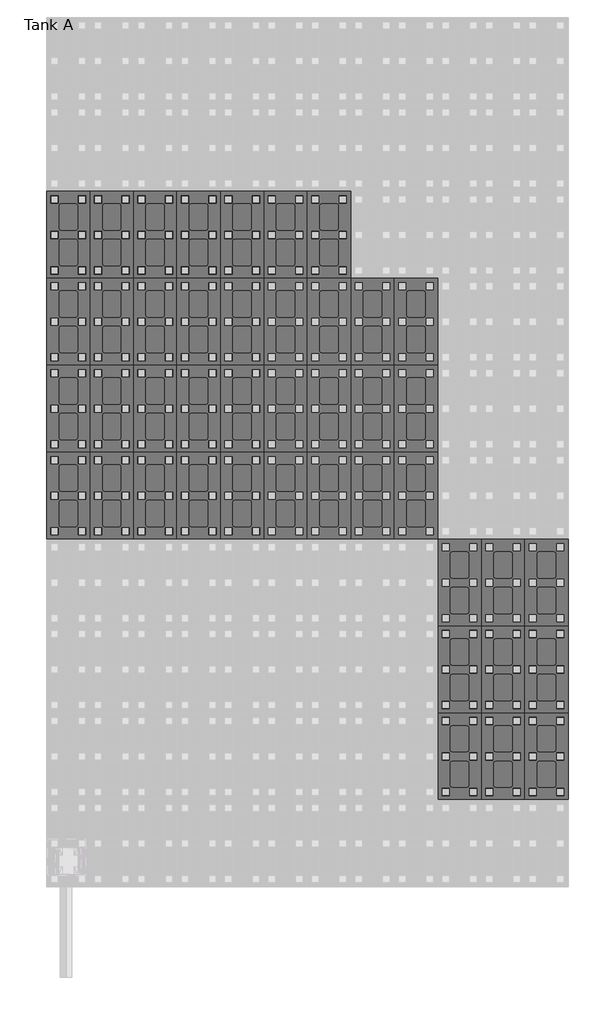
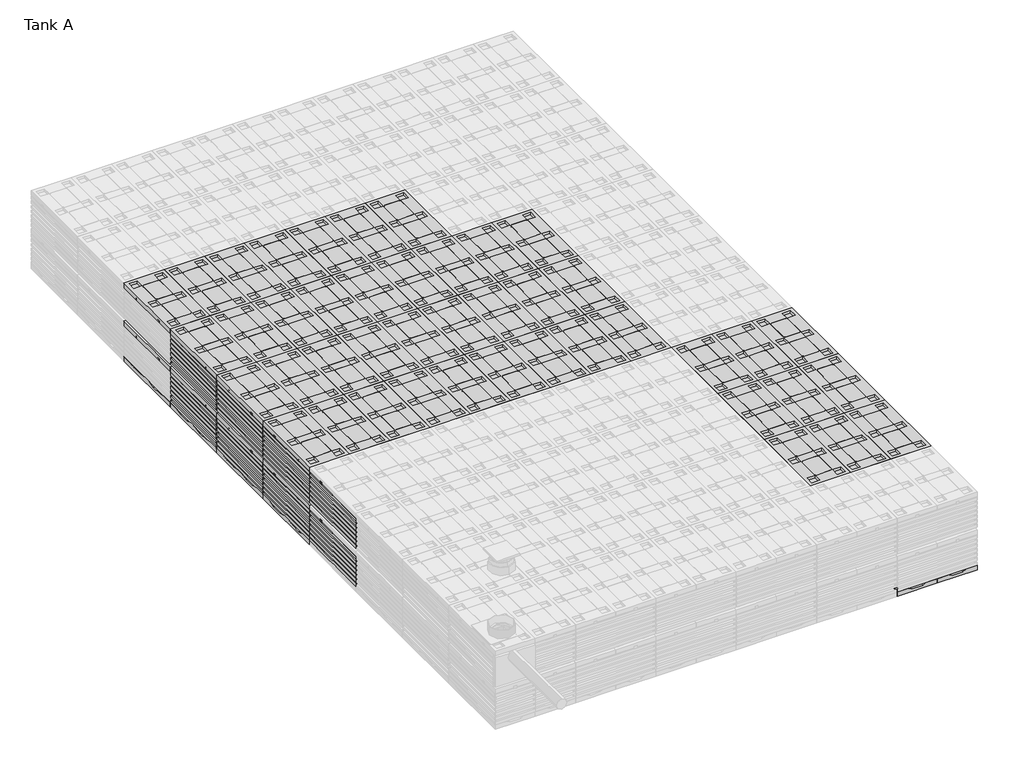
# One storey, part 2 of 6: 142 unitary equipment elements.
"""IFC4 building model written with IfcOpenShell, lengths in millimetres."""

from ifc_helpers import new_model, si_unit, origin, place, context, project, spatial, transform, mapped, element, save
from components import closed_bottom_plate_7d425a97, std_f31acf44, std_d7962c01

model = new_model("IFC4")

# Units and contexts
model_context = context("Model", 3, world=origin())
ifc_project = project(units=[si_unit("LENGTHUNIT", "METRE", prefix="MILLI")], contexts=[model_context])

# Site, building, storey
site = spatial("IfcSite", under=ifc_project)
building = spatial("IfcBuilding", under=site)
storey = spatial("IfcBuildingStorey", under=building, Name="Tank A", Elevation=-2300.0)

# Unitary equipment
placement = place(None, origin())
closed_bottom_plate_shape = closed_bottom_plate_7d425a97(model_context)
element("IfcUnitaryEquipment", 1, ObjectType="Wavin_MechanicalEquipment_QBicPlusZDoNotUseBottomPlate : Open bottom plate", at=placement, inside=storey, context=model_context, shape_type="MappedRepresentation", body=[
    mapped(closed_bottom_plate_shape, transform((9686.051096, -4439.2220602, -2230.0), x_axis=(0.0, 1.0000000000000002, 0.0), y_axis=(-1.0000000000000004, 0.0, 0.0), z_axis=(0.0, 0.0, 1.0000000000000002))),
])
element("IfcUnitaryEquipment", 2, ObjectType="Wavin_MechanicalEquipment_QBicPlusZDoNotUseBottomPlate : Open bottom plate", at=placement, inside=storey, context=model_context, shape_type="MappedRepresentation", body=[
    mapped(closed_bottom_plate_shape, transform((9686.051096, -3239.2220602, -2230.0), x_axis=(0.0, 1.0000000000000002, 0.0), y_axis=(-1.0000000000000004, 0.0, 0.0), z_axis=(0.0, 0.0, 1.0000000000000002))),
])
element("IfcUnitaryEquipment", 3, ObjectType="Wavin_MechanicalEquipment_QBicPlusZDoNotUseBottomPlate : Open bottom plate", at=placement, inside=storey, context=model_context, shape_type="MappedRepresentation", body=[
    mapped(closed_bottom_plate_shape, transform((9086.051096, -4439.2220602, -2230.0), x_axis=(0.0, 1.0, 0.0), y_axis=(-1.0000000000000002, 0.0, 0.0), z_axis=(0.0, 0.0, 1.0000000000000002))),
])
element("IfcUnitaryEquipment", 4, ObjectType="Wavin_MechanicalEquipment_QBicPlusZDoNotUseBottomPlate : Open bottom plate", at=placement, inside=storey, context=model_context, shape_type="MappedRepresentation", body=[
    mapped(closed_bottom_plate_shape, transform((9686.051096, -2039.2220602, -2230.0), x_axis=(0.0, 1.0, 0.0), y_axis=(-1.0000000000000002, 0.0, 0.0), z_axis=(0.0, 0.0, 1.0000000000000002))),
])
element("IfcUnitaryEquipment", 5, ObjectType="Wavin_MechanicalEquipment_QBicPlusZDoNotUseBottomPlate : Open bottom plate", at=placement, inside=storey, context=model_context, shape_type="MappedRepresentation", body=[
    mapped(closed_bottom_plate_shape, transform((9686.051096, -839.2220602, -2230.0), x_axis=(0.0, 1.0, 0.0), y_axis=(-1.0000000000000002, 0.0, 0.0), z_axis=(0.0, 0.0, 1.0000000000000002))),
])
element("IfcUnitaryEquipment", 6, ObjectType="Wavin_MechanicalEquipment_QBicPlusZDoNotUseBottomPlate : Open bottom plate", at=placement, inside=storey, context=model_context, shape_type="MappedRepresentation", body=[
    mapped(closed_bottom_plate_shape, transform((9086.051096, -3239.2220602, -2230.0), x_axis=(0.0, 1.0, 0.0), y_axis=(-1.0000000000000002, 0.0, 0.0), z_axis=(0.0, 0.0, 1.0000000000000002))),
])
element("IfcUnitaryEquipment", 7, ObjectType="Wavin_MechanicalEquipment_QBicPlusZDoNotUseBottomPlate : Open bottom plate", at=placement, inside=storey, context=model_context, shape_type="MappedRepresentation", body=[
    mapped(closed_bottom_plate_shape, transform((9086.051096, -2039.2220602, -2230.0), x_axis=(0.0, 1.0, 0.0), y_axis=(-1.0000000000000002, 0.0, 0.0), z_axis=(0.0, 0.0, 1.0000000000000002))),
])
element("IfcUnitaryEquipment", 8, ObjectType="Wavin_MechanicalEquipment_QBicPlusZDoNotUseBottomPlate : Open bottom plate", at=placement, inside=storey, context=model_context, shape_type="MappedRepresentation", body=[
    mapped(closed_bottom_plate_shape, transform((9086.051096, -839.2220602, -2230.0), x_axis=(0.0, 1.0, 0.0), y_axis=(-1.0000000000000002, 0.0, 0.0), z_axis=(0.0, 0.0, 1.0000000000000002))),
])
element("IfcUnitaryEquipment", 9, ObjectType="Wavin_MechanicalEquipment_QBicPlusZDoNotUseBottomPlate : Open bottom plate", at=placement, inside=storey, context=model_context, shape_type="MappedRepresentation", body=[
    mapped(closed_bottom_plate_shape, transform((8486.051096, -3239.2220602, -2230.0), x_axis=(0.0, 1.0, 0.0), y_axis=(-1.0000000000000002, 0.0, 0.0), z_axis=(0.0, 0.0, 1.0000000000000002))),
])
element("IfcUnitaryEquipment", 10, ObjectType="Wavin_MechanicalEquipment_QBicPlusZDoNotUseBottomPlate : Open bottom plate", at=placement, inside=storey, context=model_context, shape_type="MappedRepresentation", body=[
    mapped(closed_bottom_plate_shape, transform((8486.051096, -2039.2220602, -2230.0), x_axis=(0.0, 1.0, 0.0), y_axis=(-1.0000000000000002, 0.0, 0.0), z_axis=(0.0, 0.0, 1.0000000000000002))),
])
element("IfcUnitaryEquipment", 11, ObjectType="Wavin_MechanicalEquipment_QBicPlusZDoNotUseBottomPlate : Open bottom plate", at=placement, inside=storey, context=model_context, shape_type="MappedRepresentation", body=[
    mapped(closed_bottom_plate_shape, transform((8486.051096, -839.2220602, -2230.0), x_axis=(0.0, 1.0, 0.0), y_axis=(-1.0000000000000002, 0.0, 0.0), z_axis=(0.0, 0.0, 1.0000000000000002))),
])
element("IfcUnitaryEquipment", 12, ObjectType="Wavin_MechanicalEquipment_QBicPlusZDoNotUseBottomPlate : Open bottom plate", at=placement, inside=storey, context=model_context, shape_type="MappedRepresentation", body=[
    mapped(closed_bottom_plate_shape, transform((7886.051096, 360.7779398, -2230.0), x_axis=(0.0, 1.0, 0.0), y_axis=(-1.0000000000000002, 0.0, 0.0), z_axis=(0.0, 0.0, 1.0000000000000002))),
])
element("IfcUnitaryEquipment", 13, ObjectType="Wavin_MechanicalEquipment_QBicPlusZDoNotUseBottomPlate : Open bottom plate", at=placement, inside=storey, context=model_context, shape_type="MappedRepresentation", body=[
    mapped(closed_bottom_plate_shape, transform((7886.051096, 1560.7779398, -2230.0), x_axis=(0.0, 1.0, 0.0), y_axis=(-1.0000000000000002, 0.0, 0.0), z_axis=(0.0, 0.0, 1.0000000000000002))),
])
element("IfcUnitaryEquipment", 14, ObjectType="Wavin_MechanicalEquipment_QBicPlusZDoNotUseBottomPlate : Open bottom plate", at=placement, inside=storey, context=model_context, shape_type="MappedRepresentation", body=[
    mapped(closed_bottom_plate_shape, transform((7886.051096, 2760.7779398, -2230.0), x_axis=(0.0, 1.0, 0.0), y_axis=(-1.0000000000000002, 0.0, 0.0), z_axis=(0.0, 0.0, 1.0000000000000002))),
])
element("IfcUnitaryEquipment", 15, ObjectType="Wavin_MechanicalEquipment_QBicPlusZDoNotUseBottomPlate : Open bottom plate", at=placement, inside=storey, context=model_context, shape_type="MappedRepresentation", body=[
    mapped(closed_bottom_plate_shape, transform((7286.051096, 360.7779398, -2230.0), x_axis=(0.0, 1.0, 0.0), y_axis=(-1.0000000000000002, 0.0, 0.0), z_axis=(0.0, 0.0, 1.0000000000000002))),
])
element("IfcUnitaryEquipment", 16, ObjectType="Wavin_MechanicalEquipment_QBicPlusZDoNotUseBottomPlate : Open bottom plate", at=placement, inside=storey, context=model_context, shape_type="MappedRepresentation", body=[
    mapped(closed_bottom_plate_shape, transform((7286.051096, 1560.7779398, -2230.0), x_axis=(0.0, 1.0, 0.0), y_axis=(-1.0000000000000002, 0.0, 0.0), z_axis=(0.0, 0.0, 1.0000000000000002))),
])
element("IfcUnitaryEquipment", 17, ObjectType="Wavin_MechanicalEquipment_QBicPlusZDoNotUseBottomPlate : Open bottom plate", at=placement, inside=storey, context=model_context, shape_type="MappedRepresentation", body=[
    mapped(closed_bottom_plate_shape, transform((7286.051096, 2760.7779398, -2230.0), x_axis=(0.0, 1.0, 0.0), y_axis=(-1.0000000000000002, 0.0, 0.0), z_axis=(0.0, 0.0, 1.0000000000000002))),
])
element("IfcUnitaryEquipment", 18, ObjectType="Wavin_MechanicalEquipment_QBicPlusZDoNotUseBottomPlate : Open bottom plate", at=placement, inside=storey, context=model_context, shape_type="MappedRepresentation", body=[
    mapped(closed_bottom_plate_shape, transform((6686.051096, 360.7779398, -2230.0), x_axis=(0.0, 1.0, 0.0), y_axis=(-1.0000000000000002, 0.0, 0.0), z_axis=(0.0, 0.0, 1.0000000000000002))),
])
element("IfcUnitaryEquipment", 19, ObjectType="Wavin_MechanicalEquipment_QBicPlusZDoNotUseBottomPlate : Open bottom plate", at=placement, inside=storey, context=model_context, shape_type="MappedRepresentation", body=[
    mapped(closed_bottom_plate_shape, transform((6686.051096, 1560.7779398, -2230.0), x_axis=(0.0, 1.0, 0.0), y_axis=(-1.0000000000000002, 0.0, 0.0), z_axis=(0.0, 0.0, 1.0000000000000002))),
])
element("IfcUnitaryEquipment", 20, ObjectType="Wavin_MechanicalEquipment_QBicPlusZDoNotUseBottomPlate : Open bottom plate", at=placement, inside=storey, context=model_context, shape_type="MappedRepresentation", body=[
    mapped(closed_bottom_plate_shape, transform((6686.051096, 2760.7779398, -2230.0), x_axis=(0.0, 1.0, 0.0), y_axis=(-1.0000000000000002, 0.0, 0.0), z_axis=(0.0, 0.0, 1.0000000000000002))),
])
element("IfcUnitaryEquipment", 21, ObjectType="Wavin_MechanicalEquipment_QBicPlusZDoNotUseBottomPlate : Open bottom plate", at=placement, inside=storey, context=model_context, shape_type="MappedRepresentation", body=[
    mapped(closed_bottom_plate_shape, transform((6086.051096, 360.7779398, -2230.0), x_axis=(0.0, 1.0, 0.0), y_axis=(-1.0000000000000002, 0.0, 0.0), z_axis=(0.0, 0.0, 1.0000000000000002))),
])
element("IfcUnitaryEquipment", 22, ObjectType="Wavin_MechanicalEquipment_QBicPlusZDoNotUseBottomPlate : Open bottom plate", at=placement, inside=storey, context=model_context, shape_type="MappedRepresentation", body=[
    mapped(closed_bottom_plate_shape, transform((6086.051096, 1560.7779398, -2230.0), x_axis=(0.0, 1.0, 0.0), y_axis=(-1.0000000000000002, 0.0, 0.0), z_axis=(0.0, 0.0, 1.0000000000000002))),
])
element("IfcUnitaryEquipment", 23, ObjectType="Wavin_MechanicalEquipment_QBicPlusZDoNotUseBottomPlate : Open bottom plate", at=placement, inside=storey, context=model_context, shape_type="MappedRepresentation", body=[
    mapped(closed_bottom_plate_shape, transform((6086.051096, 2760.7779398, -2230.0), x_axis=(0.0, 1.0, 0.0), y_axis=(-1.0000000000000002, 0.0, 0.0), z_axis=(0.0, 0.0, 1.0000000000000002))),
])
element("IfcUnitaryEquipment", 24, ObjectType="Wavin_MechanicalEquipment_QBicPlusZDoNotUseBottomPlate : Open bottom plate", at=placement, inside=storey, context=model_context, shape_type="MappedRepresentation", body=[
    mapped(closed_bottom_plate_shape, transform((5486.051096, 360.7779398, -2230.0), x_axis=(0.0, 1.0, 0.0), y_axis=(-1.0000000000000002, 0.0, 0.0), z_axis=(0.0, 0.0, 1.0000000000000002))),
])
element("IfcUnitaryEquipment", 25, ObjectType="Wavin_MechanicalEquipment_QBicPlusZDoNotUseBottomPlate : Open bottom plate", at=placement, inside=storey, context=model_context, shape_type="MappedRepresentation", body=[
    mapped(closed_bottom_plate_shape, transform((5486.051096, 1560.7779398, -2230.0), x_axis=(0.0, 1.0, 0.0), y_axis=(-1.0000000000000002, 0.0, 0.0), z_axis=(0.0, 0.0, 1.0000000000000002))),
])
element("IfcUnitaryEquipment", 26, ObjectType="Wavin_MechanicalEquipment_QBicPlusZDoNotUseBottomPlate : Open bottom plate", at=placement, inside=storey, context=model_context, shape_type="MappedRepresentation", body=[
    mapped(closed_bottom_plate_shape, transform((5486.051096, 2760.7779398, -2230.0), x_axis=(0.0, 1.0, 0.0), y_axis=(-1.0000000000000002, 0.0, 0.0), z_axis=(0.0, 0.0, 1.0000000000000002))),
])
element("IfcUnitaryEquipment", 27, ObjectType="Wavin_MechanicalEquipment_QBicPlusZDoNotUseBottomPlate : Open bottom plate", at=placement, inside=storey, context=model_context, shape_type="MappedRepresentation", body=[
    mapped(closed_bottom_plate_shape, transform((5486.051096, 3960.7779398, -2230.0), x_axis=(0.0, 1.0, 0.0), y_axis=(-1.0000000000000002, 0.0, 0.0), z_axis=(0.0, 0.0, 1.0000000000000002))),
])
element("IfcUnitaryEquipment", 28, ObjectType="Wavin_MechanicalEquipment_QBicPlusZDoNotUseBottomPlate : Open bottom plate", at=placement, inside=storey, context=model_context, shape_type="MappedRepresentation", body=[
    mapped(closed_bottom_plate_shape, transform((4886.051096, 360.7779398, -2230.0), x_axis=(0.0, 1.0, 0.0), y_axis=(-1.0000000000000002, 0.0, 0.0), z_axis=(0.0, 0.0, 1.0000000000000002))),
])
element("IfcUnitaryEquipment", 29, ObjectType="Wavin_MechanicalEquipment_QBicPlusZDoNotUseBottomPlate : Open bottom plate", at=placement, inside=storey, context=model_context, shape_type="MappedRepresentation", body=[
    mapped(closed_bottom_plate_shape, transform((4886.051096, 1560.7779398, -2230.0), x_axis=(0.0, 1.0, 0.0), y_axis=(-1.0000000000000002, 0.0, 0.0), z_axis=(0.0, 0.0, 1.0000000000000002))),
])
element("IfcUnitaryEquipment", 30, ObjectType="Wavin_MechanicalEquipment_QBicPlusZDoNotUseBottomPlate : Open bottom plate", at=placement, inside=storey, context=model_context, shape_type="MappedRepresentation", body=[
    mapped(closed_bottom_plate_shape, transform((4886.051096, 2760.7779398, -2230.0), x_axis=(0.0, 1.0, 0.0), y_axis=(-1.0000000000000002, 0.0, 0.0), z_axis=(0.0, 0.0, 1.0000000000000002))),
])
element("IfcUnitaryEquipment", 31, ObjectType="Wavin_MechanicalEquipment_QBicPlusZDoNotUseBottomPlate : Open bottom plate", at=placement, inside=storey, context=model_context, shape_type="MappedRepresentation", body=[
    mapped(closed_bottom_plate_shape, transform((4886.051096, 3960.7779398, -2230.0), x_axis=(0.0, 1.0, 0.0), y_axis=(-1.0000000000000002, 0.0, 0.0), z_axis=(0.0, 0.0, 1.0000000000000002))),
])
element("IfcUnitaryEquipment", 32, ObjectType="Wavin_MechanicalEquipment_QBicPlusZDoNotUseBottomPlate : Open bottom plate", at=placement, inside=storey, context=model_context, shape_type="MappedRepresentation", body=[
    mapped(closed_bottom_plate_shape, transform((4286.051096, 360.7779398, -2230.0), x_axis=(0.0, 1.0, 0.0), y_axis=(-1.0000000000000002, 0.0, 0.0), z_axis=(0.0, 0.0, 1.0000000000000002))),
])
element("IfcUnitaryEquipment", 33, ObjectType="Wavin_MechanicalEquipment_QBicPlusZDoNotUseBottomPlate : Open bottom plate", at=placement, inside=storey, context=model_context, shape_type="MappedRepresentation", body=[
    mapped(closed_bottom_plate_shape, transform((4286.051096, 1560.7779398, -2230.0), x_axis=(0.0, 1.0, 0.0), y_axis=(-1.0000000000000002, 0.0, 0.0), z_axis=(0.0, 0.0, 1.0000000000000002))),
])
element("IfcUnitaryEquipment", 34, ObjectType="Wavin_MechanicalEquipment_QBicPlusZDoNotUseBottomPlate : Open bottom plate", at=placement, inside=storey, context=model_context, shape_type="MappedRepresentation", body=[
    mapped(closed_bottom_plate_shape, transform((4286.051096, 2760.7779398, -2230.0), x_axis=(0.0, 1.0, 0.0), y_axis=(-1.0000000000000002, 0.0, 0.0), z_axis=(0.0, 0.0, 1.0000000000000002))),
])
element("IfcUnitaryEquipment", 35, ObjectType="Wavin_MechanicalEquipment_QBicPlusZDoNotUseBottomPlate : Open bottom plate", at=placement, inside=storey, context=model_context, shape_type="MappedRepresentation", body=[
    mapped(closed_bottom_plate_shape, transform((4286.051096, 3960.7779398, -2230.0), x_axis=(0.0, 1.0, 0.0), y_axis=(-1.0000000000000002, 0.0, 0.0), z_axis=(0.0, 0.0, 1.0000000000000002))),
])
element("IfcUnitaryEquipment", 36, ObjectType="Wavin_MechanicalEquipment_QBicPlusZDoNotUseBottomPlate : Open bottom plate", at=placement, inside=storey, context=model_context, shape_type="MappedRepresentation", body=[
    mapped(closed_bottom_plate_shape, transform((3686.051096, 360.7779398, -2230.0), x_axis=(0.0, 1.0, 0.0), y_axis=(-1.0000000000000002, 0.0, 0.0), z_axis=(0.0, 0.0, 1.0000000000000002))),
])
element("IfcUnitaryEquipment", 37, ObjectType="Wavin_MechanicalEquipment_QBicPlusZDoNotUseBottomPlate : Open bottom plate", at=placement, inside=storey, context=model_context, shape_type="MappedRepresentation", body=[
    mapped(closed_bottom_plate_shape, transform((3686.051096, 1560.7779398, -2230.0), x_axis=(0.0, 1.0, 0.0), y_axis=(-1.0000000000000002, 0.0, 0.0), z_axis=(0.0, 0.0, 1.0000000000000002))),
])
element("IfcUnitaryEquipment", 38, ObjectType="Wavin_MechanicalEquipment_QBicPlusZDoNotUseBottomPlate : Open bottom plate", at=placement, inside=storey, context=model_context, shape_type="MappedRepresentation", body=[
    mapped(closed_bottom_plate_shape, transform((3686.051096, 2760.7779398, -2230.0), x_axis=(0.0, 1.0, 0.0), y_axis=(-1.0000000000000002, 0.0, 0.0), z_axis=(0.0, 0.0, 1.0000000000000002))),
])
element("IfcUnitaryEquipment", 39, ObjectType="Wavin_MechanicalEquipment_QBicPlusZDoNotUseBottomPlate : Open bottom plate", at=placement, inside=storey, context=model_context, shape_type="MappedRepresentation", body=[
    mapped(closed_bottom_plate_shape, transform((3686.051096, 3960.7779398, -2230.0), x_axis=(0.0, 1.0, 0.0), y_axis=(-1.0000000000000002, 0.0, 0.0), z_axis=(0.0, 0.0, 1.0000000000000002))),
])
element("IfcUnitaryEquipment", 40, ObjectType="Wavin_MechanicalEquipment_QBicPlusZDoNotUseBottomPlate : Open bottom plate", at=placement, inside=storey, context=model_context, shape_type="MappedRepresentation", body=[
    mapped(closed_bottom_plate_shape, transform((3086.051096, 360.7779398, -2230.0), x_axis=(0.0, 1.0, 0.0), y_axis=(-1.0000000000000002, 0.0, 0.0), z_axis=(0.0, 0.0, 1.0000000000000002))),
])
element("IfcUnitaryEquipment", 41, ObjectType="Wavin_MechanicalEquipment_QBicPlusZDoNotUseBottomPlate : Open bottom plate", at=placement, inside=storey, context=model_context, shape_type="MappedRepresentation", body=[
    mapped(closed_bottom_plate_shape, transform((3086.051096, 1560.7779398, -2230.0), x_axis=(0.0, 1.0, 0.0), y_axis=(-1.0000000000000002, 0.0, 0.0), z_axis=(0.0, 0.0, 1.0000000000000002))),
])
element("IfcUnitaryEquipment", 42, ObjectType="Wavin_MechanicalEquipment_QBicPlusZDoNotUseBottomPlate : Open bottom plate", at=placement, inside=storey, context=model_context, shape_type="MappedRepresentation", body=[
    mapped(closed_bottom_plate_shape, transform((3086.051096, 2760.7779398, -2230.0), x_axis=(0.0, 1.0, 0.0), y_axis=(-1.0000000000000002, 0.0, 0.0), z_axis=(0.0, 0.0, 1.0000000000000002))),
])
element("IfcUnitaryEquipment", 43, ObjectType="Wavin_MechanicalEquipment_QBicPlusZDoNotUseBottomPlate : Open bottom plate", at=placement, inside=storey, context=model_context, shape_type="MappedRepresentation", body=[
    mapped(closed_bottom_plate_shape, transform((3086.051096, 3960.7779398, -2230.0), x_axis=(0.0, 1.0, 0.0), y_axis=(-1.0000000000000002, 0.0, 0.0), z_axis=(0.0, 0.0, 1.0000000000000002))),
])
std_shape = std_f31acf44(model_context)
element("IfcUnitaryEquipment", 44, ObjectType="Wavin_MechanicalEquipment_QBicPlusZDoNotUseLateralSidePlate : std", at=placement, inside=storey, context=model_context, shape_type="MappedRepresentation", body=[
    mapped(std_shape, transform((9686.051096, -839.2220602, -2330.0), x_axis=(0.0, 1.0000000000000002, 0.0), y_axis=(-1.0000000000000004, 0.0, 0.0), z_axis=(0.0, 0.0, 1.0000000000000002))),
])
element("IfcUnitaryEquipment", 45, ObjectType="Wavin_MechanicalEquipment_QBicPlusZDoNotUseLateralSidePlate : std", at=placement, inside=storey, context=model_context, shape_type="MappedRepresentation", body=[
    mapped(std_shape, transform((9686.051096, -839.2220602, -1730.0), x_axis=(0.0, 1.0000000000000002, 0.0), y_axis=(-1.0000000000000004, 0.0, 0.0), z_axis=(0.0, 0.0, 1.0000000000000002))),
])
element("IfcUnitaryEquipment", 46, ObjectType="Wavin_MechanicalEquipment_QBicPlusZDoNotUseLateralSidePlate : std", at=placement, inside=storey, context=model_context, shape_type="MappedRepresentation", body=[
    mapped(std_shape, transform((9686.051096, -2039.2220602, -2330.0), x_axis=(0.0, 1.0000000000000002, 0.0), y_axis=(-1.0000000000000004, 0.0, 0.0), z_axis=(0.0, 0.0, 1.0000000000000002))),
])
element("IfcUnitaryEquipment", 47, ObjectType="Wavin_MechanicalEquipment_QBicPlusZDoNotUseLateralSidePlate : std", at=placement, inside=storey, context=model_context, shape_type="MappedRepresentation", body=[
    mapped(std_shape, transform((9686.051096, -2039.2220602, -1730.0), x_axis=(0.0, 1.0000000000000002, 0.0), y_axis=(-1.0000000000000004, 0.0, 0.0), z_axis=(0.0, 0.0, 1.0000000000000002))),
])
element("IfcUnitaryEquipment", 48, ObjectType="Wavin_MechanicalEquipment_QBicPlusZDoNotUseLateralSidePlate : std", at=placement, inside=storey, context=model_context, shape_type="MappedRepresentation", body=[
    mapped(std_shape, transform((9686.051096, -3239.2220602, -2330.0), x_axis=(0.0, 1.0000000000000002, 0.0), y_axis=(-1.0000000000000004, 0.0, 0.0), z_axis=(0.0, 0.0, 1.0000000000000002))),
])
element("IfcUnitaryEquipment", 49, ObjectType="Wavin_MechanicalEquipment_QBicPlusZDoNotUseLateralSidePlate : std", at=placement, inside=storey, context=model_context, shape_type="MappedRepresentation", body=[
    mapped(std_shape, transform((9686.051096, -3239.2220602, -1730.0), x_axis=(0.0, 1.0000000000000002, 0.0), y_axis=(-1.0000000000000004, 0.0, 0.0), z_axis=(0.0, 0.0, 1.0000000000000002))),
])
element("IfcUnitaryEquipment", 50, ObjectType="Wavin_MechanicalEquipment_QBicPlusZDoNotUseLateralSidePlate : std", at=placement, inside=storey, context=model_context, shape_type="MappedRepresentation", body=[
    mapped(std_shape, transform((2486.051096, 360.7779398, -2330.0), x_axis=(0.0, -1.0000000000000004, 0.0), y_axis=(1.0000000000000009, 0.0, 0.0), z_axis=(0.0, 0.0, 1.0000000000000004))),
])
element("IfcUnitaryEquipment", 51, ObjectType="Wavin_MechanicalEquipment_QBicPlusZDoNotUseLateralSidePlate : std", at=placement, inside=storey, context=model_context, shape_type="MappedRepresentation", body=[
    mapped(std_shape, transform((2486.051096, 360.7779398, -1730.0), x_axis=(0.0, -1.0000000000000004, 0.0), y_axis=(1.0000000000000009, 0.0, 0.0), z_axis=(0.0, 0.0, 1.0000000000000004))),
])
element("IfcUnitaryEquipment", 52, ObjectType="Wavin_MechanicalEquipment_QBicPlusZDoNotUseLateralSidePlate : std", at=placement, inside=storey, context=model_context, shape_type="MappedRepresentation", body=[
    mapped(std_shape, transform((2486.051096, 1560.7779398, -2330.0), x_axis=(0.0, -1.0000000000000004, 0.0), y_axis=(1.0000000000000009, 0.0, 0.0), z_axis=(0.0, 0.0, 1.0000000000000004))),
])
element("IfcUnitaryEquipment", 53, ObjectType="Wavin_MechanicalEquipment_QBicPlusZDoNotUseLateralSidePlate : std", at=placement, inside=storey, context=model_context, shape_type="MappedRepresentation", body=[
    mapped(std_shape, transform((2486.051096, 1560.7779398, -1730.0), x_axis=(0.0, -1.0000000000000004, 0.0), y_axis=(1.0000000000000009, 0.0, 0.0), z_axis=(0.0, 0.0, 1.0000000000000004))),
])
element("IfcUnitaryEquipment", 54, ObjectType="Wavin_MechanicalEquipment_QBicPlusZDoNotUseLateralSidePlate : std", at=placement, inside=storey, context=model_context, shape_type="MappedRepresentation", body=[
    mapped(std_shape, transform((2486.051096, 2760.7779398, -2330.0), x_axis=(0.0, -1.0000000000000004, 0.0), y_axis=(1.0000000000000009, 0.0, 0.0), z_axis=(0.0, 0.0, 1.0000000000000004))),
])
element("IfcUnitaryEquipment", 55, ObjectType="Wavin_MechanicalEquipment_QBicPlusZDoNotUseLateralSidePlate : std", at=placement, inside=storey, context=model_context, shape_type="MappedRepresentation", body=[
    mapped(std_shape, transform((2486.051096, 2760.7779398, -1730.0), x_axis=(0.0, -1.0000000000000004, 0.0), y_axis=(1.0000000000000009, 0.0, 0.0), z_axis=(0.0, 0.0, 1.0000000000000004))),
])
element("IfcUnitaryEquipment", 56, ObjectType="Wavin_MechanicalEquipment_QBicPlusZDoNotUseLateralSidePlate : std", at=placement, inside=storey, context=model_context, shape_type="MappedRepresentation", body=[
    mapped(std_shape, transform((2486.051096, 3960.7779398, -2330.0), x_axis=(0.0, -1.0000000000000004, 0.0), y_axis=(1.0000000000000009, 0.0, 0.0), z_axis=(0.0, 0.0, 1.0000000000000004))),
])
element("IfcUnitaryEquipment", 57, ObjectType="Wavin_MechanicalEquipment_QBicPlusZDoNotUseLateralSidePlate : std", at=placement, inside=storey, context=model_context, shape_type="MappedRepresentation", body=[
    mapped(std_shape, transform((2486.051096, 3960.7779398, -1730.0), x_axis=(0.0, -1.0000000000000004, 0.0), y_axis=(1.0000000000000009, 0.0, 0.0), z_axis=(0.0, 0.0, 1.0000000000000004))),
])
std_2_shape = std_d7962c01(model_context)
element("IfcUnitaryEquipment", 58, ObjectType="Wavin_MechanicalEquipment_QBicPlusZDoNotUseInfiltrationUnit : std", at=placement, inside=storey, context=model_context, shape_type="MappedRepresentation", body=[
    mapped(std_2_shape, transform((9686.051096, -3239.2220602, -1670.0), x_axis=(0.0, 1.0000000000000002, 0.0), y_axis=(-1.0000000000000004, 0.0, 0.0), z_axis=(0.0, 0.0, 1.0000000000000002))),
])
element("IfcUnitaryEquipment", 59, ObjectType="Wavin_MechanicalEquipment_QBicPlusZDoNotUseInfiltrationUnit : std", at=placement, inside=storey, context=model_context, shape_type="MappedRepresentation", body=[
    mapped(std_2_shape, transform((9686.051096, -3239.2220602, -2270.0), x_axis=(0.0, 1.0000000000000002, 0.0), y_axis=(-1.0000000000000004, 0.0, 0.0), z_axis=(0.0, 0.0, 1.0000000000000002))),
])
element("IfcUnitaryEquipment", 60, ObjectType="Wavin_MechanicalEquipment_QBicPlusZDoNotUseInfiltrationUnit : std", at=placement, inside=storey, context=model_context, shape_type="MappedRepresentation", body=[
    mapped(std_2_shape, transform((9686.051096, -2039.2220602, -1670.0), x_axis=(0.0, 1.0, 0.0), y_axis=(-1.0000000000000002, 0.0, 0.0), z_axis=(0.0, 0.0, 1.0000000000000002))),
])
element("IfcUnitaryEquipment", 61, ObjectType="Wavin_MechanicalEquipment_QBicPlusZDoNotUseInfiltrationUnit : std", at=placement, inside=storey, context=model_context, shape_type="MappedRepresentation", body=[
    mapped(std_2_shape, transform((9686.051096, -2039.2220602, -2270.0), x_axis=(0.0, 1.0, 0.0), y_axis=(-1.0000000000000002, 0.0, 0.0), z_axis=(0.0, 0.0, 1.0000000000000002))),
])
element("IfcUnitaryEquipment", 62, ObjectType="Wavin_MechanicalEquipment_QBicPlusZDoNotUseInfiltrationUnit : std", at=placement, inside=storey, context=model_context, shape_type="MappedRepresentation", body=[
    mapped(std_2_shape, transform((9686.051096, -839.2220602, -1670.0), x_axis=(0.0, 1.0, 0.0), y_axis=(-1.0000000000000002, 0.0, 0.0), z_axis=(0.0, 0.0, 1.0000000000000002))),
])
element("IfcUnitaryEquipment", 63, ObjectType="Wavin_MechanicalEquipment_QBicPlusZDoNotUseInfiltrationUnit : std", at=placement, inside=storey, context=model_context, shape_type="MappedRepresentation", body=[
    mapped(std_2_shape, transform((9686.051096, -839.2220602, -2270.0), x_axis=(0.0, 1.0, 0.0), y_axis=(-1.0000000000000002, 0.0, 0.0), z_axis=(0.0, 0.0, 1.0000000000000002))),
])
element("IfcUnitaryEquipment", 64, ObjectType="Wavin_MechanicalEquipment_QBicPlusZDoNotUseInfiltrationUnit : std", at=placement, inside=storey, context=model_context, shape_type="MappedRepresentation", body=[
    mapped(std_2_shape, transform((9086.051096, -3239.2220602, -1670.0), x_axis=(0.0, 1.0, 0.0), y_axis=(-1.0000000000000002, 0.0, 0.0), z_axis=(0.0, 0.0, 1.0000000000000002))),
])
element("IfcUnitaryEquipment", 65, ObjectType="Wavin_MechanicalEquipment_QBicPlusZDoNotUseInfiltrationUnit : std", at=placement, inside=storey, context=model_context, shape_type="MappedRepresentation", body=[
    mapped(std_2_shape, transform((9086.051096, -3239.2220602, -2270.0), x_axis=(0.0, 1.0, 0.0), y_axis=(-1.0000000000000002, 0.0, 0.0), z_axis=(0.0, 0.0, 1.0000000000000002))),
])
element("IfcUnitaryEquipment", 66, ObjectType="Wavin_MechanicalEquipment_QBicPlusZDoNotUseInfiltrationUnit : std", at=placement, inside=storey, context=model_context, shape_type="MappedRepresentation", body=[
    mapped(std_2_shape, transform((9086.051096, -2039.2220602, -1670.0), x_axis=(0.0, 1.0, 0.0), y_axis=(-1.0000000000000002, 0.0, 0.0), z_axis=(0.0, 0.0, 1.0000000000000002))),
])
element("IfcUnitaryEquipment", 67, ObjectType="Wavin_MechanicalEquipment_QBicPlusZDoNotUseInfiltrationUnit : std", at=placement, inside=storey, context=model_context, shape_type="MappedRepresentation", body=[
    mapped(std_2_shape, transform((9086.051096, -2039.2220602, -2270.0), x_axis=(0.0, 1.0, 0.0), y_axis=(-1.0000000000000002, 0.0, 0.0), z_axis=(0.0, 0.0, 1.0000000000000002))),
])
element("IfcUnitaryEquipment", 68, ObjectType="Wavin_MechanicalEquipment_QBicPlusZDoNotUseInfiltrationUnit : std", at=placement, inside=storey, context=model_context, shape_type="MappedRepresentation", body=[
    mapped(std_2_shape, transform((9086.051096, -839.2220602, -1670.0), x_axis=(0.0, 1.0, 0.0), y_axis=(-1.0000000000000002, 0.0, 0.0), z_axis=(0.0, 0.0, 1.0000000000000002))),
])
element("IfcUnitaryEquipment", 69, ObjectType="Wavin_MechanicalEquipment_QBicPlusZDoNotUseInfiltrationUnit : std", at=placement, inside=storey, context=model_context, shape_type="MappedRepresentation", body=[
    mapped(std_2_shape, transform((9086.051096, -839.2220602, -2270.0), x_axis=(0.0, 1.0, 0.0), y_axis=(-1.0000000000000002, 0.0, 0.0), z_axis=(0.0, 0.0, 1.0000000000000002))),
])
element("IfcUnitaryEquipment", 70, ObjectType="Wavin_MechanicalEquipment_QBicPlusZDoNotUseInfiltrationUnit : std", at=placement, inside=storey, context=model_context, shape_type="MappedRepresentation", body=[
    mapped(std_2_shape, transform((8486.051096, -3239.2220602, -1670.0), x_axis=(0.0, 1.0, 0.0), y_axis=(-1.0000000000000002, 0.0, 0.0), z_axis=(0.0, 0.0, 1.0000000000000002))),
])
element("IfcUnitaryEquipment", 71, ObjectType="Wavin_MechanicalEquipment_QBicPlusZDoNotUseInfiltrationUnit : std", at=placement, inside=storey, context=model_context, shape_type="MappedRepresentation", body=[
    mapped(std_2_shape, transform((8486.051096, -3239.2220602, -2270.0), x_axis=(0.0, 1.0, 0.0), y_axis=(-1.0000000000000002, 0.0, 0.0), z_axis=(0.0, 0.0, 1.0000000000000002))),
])
element("IfcUnitaryEquipment", 72, ObjectType="Wavin_MechanicalEquipment_QBicPlusZDoNotUseInfiltrationUnit : std", at=placement, inside=storey, context=model_context, shape_type="MappedRepresentation", body=[
    mapped(std_2_shape, transform((8486.051096, -2039.2220602, -1670.0), x_axis=(0.0, 1.0, 0.0), y_axis=(-1.0000000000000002, 0.0, 0.0), z_axis=(0.0, 0.0, 1.0000000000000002))),
])
element("IfcUnitaryEquipment", 73, ObjectType="Wavin_MechanicalEquipment_QBicPlusZDoNotUseInfiltrationUnit : std", at=placement, inside=storey, context=model_context, shape_type="MappedRepresentation", body=[
    mapped(std_2_shape, transform((8486.051096, -2039.2220602, -2270.0), x_axis=(0.0, 1.0, 0.0), y_axis=(-1.0000000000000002, 0.0, 0.0), z_axis=(0.0, 0.0, 1.0000000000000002))),
])
element("IfcUnitaryEquipment", 74, ObjectType="Wavin_MechanicalEquipment_QBicPlusZDoNotUseInfiltrationUnit : std", at=placement, inside=storey, context=model_context, shape_type="MappedRepresentation", body=[
    mapped(std_2_shape, transform((8486.051096, -839.2220602, -1670.0), x_axis=(0.0, 1.0, 0.0), y_axis=(-1.0000000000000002, 0.0, 0.0), z_axis=(0.0, 0.0, 1.0000000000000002))),
])
element("IfcUnitaryEquipment", 75, ObjectType="Wavin_MechanicalEquipment_QBicPlusZDoNotUseInfiltrationUnit : std", at=placement, inside=storey, context=model_context, shape_type="MappedRepresentation", body=[
    mapped(std_2_shape, transform((8486.051096, -839.2220602, -2270.0), x_axis=(0.0, 1.0, 0.0), y_axis=(-1.0000000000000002, 0.0, 0.0), z_axis=(0.0, 0.0, 1.0000000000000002))),
])
element("IfcUnitaryEquipment", 76, ObjectType="Wavin_MechanicalEquipment_QBicPlusZDoNotUseInfiltrationUnit : std", at=placement, inside=storey, context=model_context, shape_type="MappedRepresentation", body=[
    mapped(std_2_shape, transform((7886.051096, 360.7779398, -1670.0), x_axis=(0.0, 1.0, 0.0), y_axis=(-1.0000000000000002, 0.0, 0.0), z_axis=(0.0, 0.0, 1.0000000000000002))),
])
element("IfcUnitaryEquipment", 77, ObjectType="Wavin_MechanicalEquipment_QBicPlusZDoNotUseInfiltrationUnit : std", at=placement, inside=storey, context=model_context, shape_type="MappedRepresentation", body=[
    mapped(std_2_shape, transform((7886.051096, 360.7779398, -2270.0), x_axis=(0.0, 1.0, 0.0), y_axis=(-1.0000000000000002, 0.0, 0.0), z_axis=(0.0, 0.0, 1.0000000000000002))),
])
element("IfcUnitaryEquipment", 78, ObjectType="Wavin_MechanicalEquipment_QBicPlusZDoNotUseInfiltrationUnit : std", at=placement, inside=storey, context=model_context, shape_type="MappedRepresentation", body=[
    mapped(std_2_shape, transform((7886.051096, 1560.7779398, -1670.0), x_axis=(0.0, 1.0, 0.0), y_axis=(-1.0000000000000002, 0.0, 0.0), z_axis=(0.0, 0.0, 1.0000000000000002))),
])
element("IfcUnitaryEquipment", 79, ObjectType="Wavin_MechanicalEquipment_QBicPlusZDoNotUseInfiltrationUnit : std", at=placement, inside=storey, context=model_context, shape_type="MappedRepresentation", body=[
    mapped(std_2_shape, transform((7886.051096, 1560.7779398, -2270.0), x_axis=(0.0, 1.0, 0.0), y_axis=(-1.0000000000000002, 0.0, 0.0), z_axis=(0.0, 0.0, 1.0000000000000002))),
])
element("IfcUnitaryEquipment", 80, ObjectType="Wavin_MechanicalEquipment_QBicPlusZDoNotUseInfiltrationUnit : std", at=placement, inside=storey, context=model_context, shape_type="MappedRepresentation", body=[
    mapped(std_2_shape, transform((7886.051096, 2760.7779398, -1670.0), x_axis=(0.0, 1.0, 0.0), y_axis=(-1.0000000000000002, 0.0, 0.0), z_axis=(0.0, 0.0, 1.0000000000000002))),
])
element("IfcUnitaryEquipment", 81, ObjectType="Wavin_MechanicalEquipment_QBicPlusZDoNotUseInfiltrationUnit : std", at=placement, inside=storey, context=model_context, shape_type="MappedRepresentation", body=[
    mapped(std_2_shape, transform((7886.051096, 2760.7779398, -2270.0), x_axis=(0.0, 1.0, 0.0), y_axis=(-1.0000000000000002, 0.0, 0.0), z_axis=(0.0, 0.0, 1.0000000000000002))),
])
element("IfcUnitaryEquipment", 82, ObjectType="Wavin_MechanicalEquipment_QBicPlusZDoNotUseInfiltrationUnit : std", at=placement, inside=storey, context=model_context, shape_type="MappedRepresentation", body=[
    mapped(std_2_shape, transform((7286.051096, 360.7779398, -1670.0), x_axis=(0.0, 1.0, 0.0), y_axis=(-1.0000000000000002, 0.0, 0.0), z_axis=(0.0, 0.0, 1.0000000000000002))),
])
element("IfcUnitaryEquipment", 83, ObjectType="Wavin_MechanicalEquipment_QBicPlusZDoNotUseInfiltrationUnit : std", at=placement, inside=storey, context=model_context, shape_type="MappedRepresentation", body=[
    mapped(std_2_shape, transform((7286.051096, 360.7779398, -2270.0), x_axis=(0.0, 1.0, 0.0), y_axis=(-1.0000000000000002, 0.0, 0.0), z_axis=(0.0, 0.0, 1.0000000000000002))),
])
element("IfcUnitaryEquipment", 84, ObjectType="Wavin_MechanicalEquipment_QBicPlusZDoNotUseInfiltrationUnit : std", at=placement, inside=storey, context=model_context, shape_type="MappedRepresentation", body=[
    mapped(std_2_shape, transform((7286.051096, 1560.7779398, -1670.0), x_axis=(0.0, 1.0, 0.0), y_axis=(-1.0000000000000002, 0.0, 0.0), z_axis=(0.0, 0.0, 1.0000000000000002))),
])
element("IfcUnitaryEquipment", 85, ObjectType="Wavin_MechanicalEquipment_QBicPlusZDoNotUseInfiltrationUnit : std", at=placement, inside=storey, context=model_context, shape_type="MappedRepresentation", body=[
    mapped(std_2_shape, transform((7286.051096, 1560.7779398, -2270.0), x_axis=(0.0, 1.0, 0.0), y_axis=(-1.0000000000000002, 0.0, 0.0), z_axis=(0.0, 0.0, 1.0000000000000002))),
])
element("IfcUnitaryEquipment", 86, ObjectType="Wavin_MechanicalEquipment_QBicPlusZDoNotUseInfiltrationUnit : std", at=placement, inside=storey, context=model_context, shape_type="MappedRepresentation", body=[
    mapped(std_2_shape, transform((7286.051096, 2760.7779398, -1670.0), x_axis=(0.0, 1.0, 0.0), y_axis=(-1.0000000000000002, 0.0, 0.0), z_axis=(0.0, 0.0, 1.0000000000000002))),
])
element("IfcUnitaryEquipment", 87, ObjectType="Wavin_MechanicalEquipment_QBicPlusZDoNotUseInfiltrationUnit : std", at=placement, inside=storey, context=model_context, shape_type="MappedRepresentation", body=[
    mapped(std_2_shape, transform((7286.051096, 2760.7779398, -2270.0), x_axis=(0.0, 1.0, 0.0), y_axis=(-1.0000000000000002, 0.0, 0.0), z_axis=(0.0, 0.0, 1.0000000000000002))),
])
element("IfcUnitaryEquipment", 88, ObjectType="Wavin_MechanicalEquipment_QBicPlusZDoNotUseInfiltrationUnit : std", at=placement, inside=storey, context=model_context, shape_type="MappedRepresentation", body=[
    mapped(std_2_shape, transform((6686.051096, 360.7779398, -1670.0), x_axis=(0.0, 1.0, 0.0), y_axis=(-1.0000000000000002, 0.0, 0.0), z_axis=(0.0, 0.0, 1.0000000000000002))),
])
element("IfcUnitaryEquipment", 89, ObjectType="Wavin_MechanicalEquipment_QBicPlusZDoNotUseInfiltrationUnit : std", at=placement, inside=storey, context=model_context, shape_type="MappedRepresentation", body=[
    mapped(std_2_shape, transform((6686.051096, 360.7779398, -2270.0), x_axis=(0.0, 1.0, 0.0), y_axis=(-1.0000000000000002, 0.0, 0.0), z_axis=(0.0, 0.0, 1.0000000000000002))),
])
element("IfcUnitaryEquipment", 90, ObjectType="Wavin_MechanicalEquipment_QBicPlusZDoNotUseInfiltrationUnit : std", at=placement, inside=storey, context=model_context, shape_type="MappedRepresentation", body=[
    mapped(std_2_shape, transform((6686.051096, 1560.7779398, -1670.0), x_axis=(0.0, 1.0, 0.0), y_axis=(-1.0000000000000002, 0.0, 0.0), z_axis=(0.0, 0.0, 1.0000000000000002))),
])
element("IfcUnitaryEquipment", 91, ObjectType="Wavin_MechanicalEquipment_QBicPlusZDoNotUseInfiltrationUnit : std", at=placement, inside=storey, context=model_context, shape_type="MappedRepresentation", body=[
    mapped(std_2_shape, transform((6686.051096, 1560.7779398, -2270.0), x_axis=(0.0, 1.0, 0.0), y_axis=(-1.0000000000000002, 0.0, 0.0), z_axis=(0.0, 0.0, 1.0000000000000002))),
])
element("IfcUnitaryEquipment", 92, ObjectType="Wavin_MechanicalEquipment_QBicPlusZDoNotUseInfiltrationUnit : std", at=placement, inside=storey, context=model_context, shape_type="MappedRepresentation", body=[
    mapped(std_2_shape, transform((6686.051096, 2760.7779398, -1670.0), x_axis=(0.0, 1.0, 0.0), y_axis=(-1.0000000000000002, 0.0, 0.0), z_axis=(0.0, 0.0, 1.0000000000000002))),
])
element("IfcUnitaryEquipment", 93, ObjectType="Wavin_MechanicalEquipment_QBicPlusZDoNotUseInfiltrationUnit : std", at=placement, inside=storey, context=model_context, shape_type="MappedRepresentation", body=[
    mapped(std_2_shape, transform((6686.051096, 2760.7779398, -2270.0), x_axis=(0.0, 1.0, 0.0), y_axis=(-1.0000000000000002, 0.0, 0.0), z_axis=(0.0, 0.0, 1.0000000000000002))),
])
element("IfcUnitaryEquipment", 94, ObjectType="Wavin_MechanicalEquipment_QBicPlusZDoNotUseInfiltrationUnit : std", at=placement, inside=storey, context=model_context, shape_type="MappedRepresentation", body=[
    mapped(std_2_shape, transform((6686.051096, 3960.7779398, -1670.0), x_axis=(0.0, 1.0, 0.0), y_axis=(-1.0000000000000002, 0.0, 0.0), z_axis=(0.0, 0.0, 1.0000000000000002))),
])
element("IfcUnitaryEquipment", 95, ObjectType="Wavin_MechanicalEquipment_QBicPlusZDoNotUseInfiltrationUnit : std", at=placement, inside=storey, context=model_context, shape_type="MappedRepresentation", body=[
    mapped(std_2_shape, transform((6686.051096, 3960.7779398, -2270.0), x_axis=(0.0, 1.0, 0.0), y_axis=(-1.0000000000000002, 0.0, 0.0), z_axis=(0.0, 0.0, 1.0000000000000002))),
])
element("IfcUnitaryEquipment", 96, ObjectType="Wavin_MechanicalEquipment_QBicPlusZDoNotUseInfiltrationUnit : std", at=placement, inside=storey, context=model_context, shape_type="MappedRepresentation", body=[
    mapped(std_2_shape, transform((6086.051096, 360.7779398, -1670.0), x_axis=(0.0, 1.0, 0.0), y_axis=(-1.0000000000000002, 0.0, 0.0), z_axis=(0.0, 0.0, 1.0000000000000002))),
])
element("IfcUnitaryEquipment", 97, ObjectType="Wavin_MechanicalEquipment_QBicPlusZDoNotUseInfiltrationUnit : std", at=placement, inside=storey, context=model_context, shape_type="MappedRepresentation", body=[
    mapped(std_2_shape, transform((6086.051096, 360.7779398, -2270.0), x_axis=(0.0, 1.0, 0.0), y_axis=(-1.0000000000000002, 0.0, 0.0), z_axis=(0.0, 0.0, 1.0000000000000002))),
])
element("IfcUnitaryEquipment", 98, ObjectType="Wavin_MechanicalEquipment_QBicPlusZDoNotUseInfiltrationUnit : std", at=placement, inside=storey, context=model_context, shape_type="MappedRepresentation", body=[
    mapped(std_2_shape, transform((6086.051096, 1560.7779398, -1670.0), x_axis=(0.0, 1.0, 0.0), y_axis=(-1.0000000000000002, 0.0, 0.0), z_axis=(0.0, 0.0, 1.0000000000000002))),
])
element("IfcUnitaryEquipment", 99, ObjectType="Wavin_MechanicalEquipment_QBicPlusZDoNotUseInfiltrationUnit : std", at=placement, inside=storey, context=model_context, shape_type="MappedRepresentation", body=[
    mapped(std_2_shape, transform((6086.051096, 1560.7779398, -2270.0), x_axis=(0.0, 1.0, 0.0), y_axis=(-1.0000000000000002, 0.0, 0.0), z_axis=(0.0, 0.0, 1.0000000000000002))),
])
element("IfcUnitaryEquipment", 100, ObjectType="Wavin_MechanicalEquipment_QBicPlusZDoNotUseInfiltrationUnit : std", at=placement, inside=storey, context=model_context, shape_type="MappedRepresentation", body=[
    mapped(std_2_shape, transform((6086.051096, 2760.7779398, -1670.0), x_axis=(0.0, 1.0, 0.0), y_axis=(-1.0000000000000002, 0.0, 0.0), z_axis=(0.0, 0.0, 1.0000000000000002))),
])
element("IfcUnitaryEquipment", 101, ObjectType="Wavin_MechanicalEquipment_QBicPlusZDoNotUseInfiltrationUnit : std", at=placement, inside=storey, context=model_context, shape_type="MappedRepresentation", body=[
    mapped(std_2_shape, transform((6086.051096, 2760.7779398, -2270.0), x_axis=(0.0, 1.0, 0.0), y_axis=(-1.0000000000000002, 0.0, 0.0), z_axis=(0.0, 0.0, 1.0000000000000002))),
])
element("IfcUnitaryEquipment", 102, ObjectType="Wavin_MechanicalEquipment_QBicPlusZDoNotUseInfiltrationUnit : std", at=placement, inside=storey, context=model_context, shape_type="MappedRepresentation", body=[
    mapped(std_2_shape, transform((6086.051096, 3960.7779398, -1670.0), x_axis=(0.0, 1.0, 0.0), y_axis=(-1.0000000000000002, 0.0, 0.0), z_axis=(0.0, 0.0, 1.0000000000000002))),
])
element("IfcUnitaryEquipment", 103, ObjectType="Wavin_MechanicalEquipment_QBicPlusZDoNotUseInfiltrationUnit : std", at=placement, inside=storey, context=model_context, shape_type="MappedRepresentation", body=[
    mapped(std_2_shape, transform((5486.051096, 360.7779398, -1670.0), x_axis=(0.0, 1.0, 0.0), y_axis=(-1.0000000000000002, 0.0, 0.0), z_axis=(0.0, 0.0, 1.0000000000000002))),
])
element("IfcUnitaryEquipment", 104, ObjectType="Wavin_MechanicalEquipment_QBicPlusZDoNotUseInfiltrationUnit : std", at=placement, inside=storey, context=model_context, shape_type="MappedRepresentation", body=[
    mapped(std_2_shape, transform((5486.051096, 360.7779398, -2270.0), x_axis=(0.0, 1.0, 0.0), y_axis=(-1.0000000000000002, 0.0, 0.0), z_axis=(0.0, 0.0, 1.0000000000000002))),
])
element("IfcUnitaryEquipment", 105, ObjectType="Wavin_MechanicalEquipment_QBicPlusZDoNotUseInfiltrationUnit : std", at=placement, inside=storey, context=model_context, shape_type="MappedRepresentation", body=[
    mapped(std_2_shape, transform((5486.051096, 1560.7779398, -1670.0), x_axis=(0.0, 1.0, 0.0), y_axis=(-1.0000000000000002, 0.0, 0.0), z_axis=(0.0, 0.0, 1.0000000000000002))),
])
element("IfcUnitaryEquipment", 106, ObjectType="Wavin_MechanicalEquipment_QBicPlusZDoNotUseInfiltrationUnit : std", at=placement, inside=storey, context=model_context, shape_type="MappedRepresentation", body=[
    mapped(std_2_shape, transform((5486.051096, 1560.7779398, -2270.0), x_axis=(0.0, 1.0, 0.0), y_axis=(-1.0000000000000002, 0.0, 0.0), z_axis=(0.0, 0.0, 1.0000000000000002))),
])
element("IfcUnitaryEquipment", 107, ObjectType="Wavin_MechanicalEquipment_QBicPlusZDoNotUseInfiltrationUnit : std", at=placement, inside=storey, context=model_context, shape_type="MappedRepresentation", body=[
    mapped(std_2_shape, transform((5486.051096, 2760.7779398, -1670.0), x_axis=(0.0, 1.0, 0.0), y_axis=(-1.0000000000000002, 0.0, 0.0), z_axis=(0.0, 0.0, 1.0000000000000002))),
])
element("IfcUnitaryEquipment", 108, ObjectType="Wavin_MechanicalEquipment_QBicPlusZDoNotUseInfiltrationUnit : std", at=placement, inside=storey, context=model_context, shape_type="MappedRepresentation", body=[
    mapped(std_2_shape, transform((5486.051096, 2760.7779398, -2270.0), x_axis=(0.0, 1.0, 0.0), y_axis=(-1.0000000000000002, 0.0, 0.0), z_axis=(0.0, 0.0, 1.0000000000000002))),
])
element("IfcUnitaryEquipment", 109, ObjectType="Wavin_MechanicalEquipment_QBicPlusZDoNotUseInfiltrationUnit : std", at=placement, inside=storey, context=model_context, shape_type="MappedRepresentation", body=[
    mapped(std_2_shape, transform((5486.051096, 3960.7779398, -1670.0), x_axis=(0.0, 1.0, 0.0), y_axis=(-1.0000000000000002, 0.0, 0.0), z_axis=(0.0, 0.0, 1.0000000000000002))),
])
element("IfcUnitaryEquipment", 110, ObjectType="Wavin_MechanicalEquipment_QBicPlusZDoNotUseInfiltrationUnit : std", at=placement, inside=storey, context=model_context, shape_type="MappedRepresentation", body=[
    mapped(std_2_shape, transform((5486.051096, 3960.7779398, -2270.0), x_axis=(0.0, 1.0, 0.0), y_axis=(-1.0000000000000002, 0.0, 0.0), z_axis=(0.0, 0.0, 1.0000000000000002))),
])
element("IfcUnitaryEquipment", 111, ObjectType="Wavin_MechanicalEquipment_QBicPlusZDoNotUseInfiltrationUnit : std", at=placement, inside=storey, context=model_context, shape_type="MappedRepresentation", body=[
    mapped(std_2_shape, transform((4886.051096, 360.7779398, -1670.0), x_axis=(0.0, 1.0, 0.0), y_axis=(-1.0000000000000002, 0.0, 0.0), z_axis=(0.0, 0.0, 1.0000000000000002))),
])
element("IfcUnitaryEquipment", 112, ObjectType="Wavin_MechanicalEquipment_QBicPlusZDoNotUseInfiltrationUnit : std", at=placement, inside=storey, context=model_context, shape_type="MappedRepresentation", body=[
    mapped(std_2_shape, transform((4886.051096, 360.7779398, -2270.0), x_axis=(0.0, 1.0, 0.0), y_axis=(-1.0000000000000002, 0.0, 0.0), z_axis=(0.0, 0.0, 1.0000000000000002))),
])
element("IfcUnitaryEquipment", 113, ObjectType="Wavin_MechanicalEquipment_QBicPlusZDoNotUseInfiltrationUnit : std", at=placement, inside=storey, context=model_context, shape_type="MappedRepresentation", body=[
    mapped(std_2_shape, transform((4886.051096, 1560.7779398, -1670.0), x_axis=(0.0, 1.0, 0.0), y_axis=(-1.0000000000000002, 0.0, 0.0), z_axis=(0.0, 0.0, 1.0000000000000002))),
])
element("IfcUnitaryEquipment", 114, ObjectType="Wavin_MechanicalEquipment_QBicPlusZDoNotUseInfiltrationUnit : std", at=placement, inside=storey, context=model_context, shape_type="MappedRepresentation", body=[
    mapped(std_2_shape, transform((4886.051096, 1560.7779398, -2270.0), x_axis=(0.0, 1.0, 0.0), y_axis=(-1.0000000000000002, 0.0, 0.0), z_axis=(0.0, 0.0, 1.0000000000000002))),
])
element("IfcUnitaryEquipment", 115, ObjectType="Wavin_MechanicalEquipment_QBicPlusZDoNotUseInfiltrationUnit : std", at=placement, inside=storey, context=model_context, shape_type="MappedRepresentation", body=[
    mapped(std_2_shape, transform((4886.051096, 2760.7779398, -1670.0), x_axis=(0.0, 1.0, 0.0), y_axis=(-1.0000000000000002, 0.0, 0.0), z_axis=(0.0, 0.0, 1.0000000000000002))),
])
element("IfcUnitaryEquipment", 116, ObjectType="Wavin_MechanicalEquipment_QBicPlusZDoNotUseInfiltrationUnit : std", at=placement, inside=storey, context=model_context, shape_type="MappedRepresentation", body=[
    mapped(std_2_shape, transform((4886.051096, 2760.7779398, -2270.0), x_axis=(0.0, 1.0, 0.0), y_axis=(-1.0000000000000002, 0.0, 0.0), z_axis=(0.0, 0.0, 1.0000000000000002))),
])
element("IfcUnitaryEquipment", 117, ObjectType="Wavin_MechanicalEquipment_QBicPlusZDoNotUseInfiltrationUnit : std", at=placement, inside=storey, context=model_context, shape_type="MappedRepresentation", body=[
    mapped(std_2_shape, transform((4886.051096, 3960.7779398, -1670.0), x_axis=(0.0, 1.0, 0.0), y_axis=(-1.0000000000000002, 0.0, 0.0), z_axis=(0.0, 0.0, 1.0000000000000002))),
])
element("IfcUnitaryEquipment", 118, ObjectType="Wavin_MechanicalEquipment_QBicPlusZDoNotUseInfiltrationUnit : std", at=placement, inside=storey, context=model_context, shape_type="MappedRepresentation", body=[
    mapped(std_2_shape, transform((4886.051096, 3960.7779398, -2270.0), x_axis=(0.0, 1.0, 0.0), y_axis=(-1.0000000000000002, 0.0, 0.0), z_axis=(0.0, 0.0, 1.0000000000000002))),
])
element("IfcUnitaryEquipment", 119, ObjectType="Wavin_MechanicalEquipment_QBicPlusZDoNotUseInfiltrationUnit : std", at=placement, inside=storey, context=model_context, shape_type="MappedRepresentation", body=[
    mapped(std_2_shape, transform((4286.051096, 360.7779398, -1670.0), x_axis=(0.0, 1.0, 0.0), y_axis=(-1.0000000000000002, 0.0, 0.0), z_axis=(0.0, 0.0, 1.0000000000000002))),
])
element("IfcUnitaryEquipment", 120, ObjectType="Wavin_MechanicalEquipment_QBicPlusZDoNotUseInfiltrationUnit : std", at=placement, inside=storey, context=model_context, shape_type="MappedRepresentation", body=[
    mapped(std_2_shape, transform((4286.051096, 360.7779398, -2270.0), x_axis=(0.0, 1.0, 0.0), y_axis=(-1.0000000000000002, 0.0, 0.0), z_axis=(0.0, 0.0, 1.0000000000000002))),
])
element("IfcUnitaryEquipment", 121, ObjectType="Wavin_MechanicalEquipment_QBicPlusZDoNotUseInfiltrationUnit : std", at=placement, inside=storey, context=model_context, shape_type="MappedRepresentation", body=[
    mapped(std_2_shape, transform((4286.051096, 1560.7779398, -1670.0), x_axis=(0.0, 1.0, 0.0), y_axis=(-1.0000000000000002, 0.0, 0.0), z_axis=(0.0, 0.0, 1.0000000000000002))),
])
element("IfcUnitaryEquipment", 122, ObjectType="Wavin_MechanicalEquipment_QBicPlusZDoNotUseInfiltrationUnit : std", at=placement, inside=storey, context=model_context, shape_type="MappedRepresentation", body=[
    mapped(std_2_shape, transform((4286.051096, 1560.7779398, -2270.0), x_axis=(0.0, 1.0, 0.0), y_axis=(-1.0000000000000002, 0.0, 0.0), z_axis=(0.0, 0.0, 1.0000000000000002))),
])
element("IfcUnitaryEquipment", 123, ObjectType="Wavin_MechanicalEquipment_QBicPlusZDoNotUseInfiltrationUnit : std", at=placement, inside=storey, context=model_context, shape_type="MappedRepresentation", body=[
    mapped(std_2_shape, transform((4286.051096, 2760.7779398, -1670.0), x_axis=(0.0, 1.0, 0.0), y_axis=(-1.0000000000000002, 0.0, 0.0), z_axis=(0.0, 0.0, 1.0000000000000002))),
])
element("IfcUnitaryEquipment", 124, ObjectType="Wavin_MechanicalEquipment_QBicPlusZDoNotUseInfiltrationUnit : std", at=placement, inside=storey, context=model_context, shape_type="MappedRepresentation", body=[
    mapped(std_2_shape, transform((4286.051096, 2760.7779398, -2270.0), x_axis=(0.0, 1.0, 0.0), y_axis=(-1.0000000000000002, 0.0, 0.0), z_axis=(0.0, 0.0, 1.0000000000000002))),
])
element("IfcUnitaryEquipment", 125, ObjectType="Wavin_MechanicalEquipment_QBicPlusZDoNotUseInfiltrationUnit : std", at=placement, inside=storey, context=model_context, shape_type="MappedRepresentation", body=[
    mapped(std_2_shape, transform((4286.051096, 3960.7779398, -1670.0), x_axis=(0.0, 1.0, 0.0), y_axis=(-1.0000000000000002, 0.0, 0.0), z_axis=(0.0, 0.0, 1.0000000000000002))),
])
element("IfcUnitaryEquipment", 126, ObjectType="Wavin_MechanicalEquipment_QBicPlusZDoNotUseInfiltrationUnit : std", at=placement, inside=storey, context=model_context, shape_type="MappedRepresentation", body=[
    mapped(std_2_shape, transform((4286.051096, 3960.7779398, -2270.0), x_axis=(0.0, 1.0, 0.0), y_axis=(-1.0000000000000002, 0.0, 0.0), z_axis=(0.0, 0.0, 1.0000000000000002))),
])
element("IfcUnitaryEquipment", 127, ObjectType="Wavin_MechanicalEquipment_QBicPlusZDoNotUseInfiltrationUnit : std", at=placement, inside=storey, context=model_context, shape_type="MappedRepresentation", body=[
    mapped(std_2_shape, transform((3686.051096, 360.7779398, -1670.0), x_axis=(0.0, 1.0, 0.0), y_axis=(-1.0000000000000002, 0.0, 0.0), z_axis=(0.0, 0.0, 1.0000000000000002))),
])
element("IfcUnitaryEquipment", 128, ObjectType="Wavin_MechanicalEquipment_QBicPlusZDoNotUseInfiltrationUnit : std", at=placement, inside=storey, context=model_context, shape_type="MappedRepresentation", body=[
    mapped(std_2_shape, transform((3686.051096, 360.7779398, -2270.0), x_axis=(0.0, 1.0, 0.0), y_axis=(-1.0000000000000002, 0.0, 0.0), z_axis=(0.0, 0.0, 1.0000000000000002))),
])
element("IfcUnitaryEquipment", 129, ObjectType="Wavin_MechanicalEquipment_QBicPlusZDoNotUseInfiltrationUnit : std", at=placement, inside=storey, context=model_context, shape_type="MappedRepresentation", body=[
    mapped(std_2_shape, transform((3686.051096, 1560.7779398, -1670.0), x_axis=(0.0, 1.0, 0.0), y_axis=(-1.0000000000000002, 0.0, 0.0), z_axis=(0.0, 0.0, 1.0000000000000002))),
])
element("IfcUnitaryEquipment", 130, ObjectType="Wavin_MechanicalEquipment_QBicPlusZDoNotUseInfiltrationUnit : std", at=placement, inside=storey, context=model_context, shape_type="MappedRepresentation", body=[
    mapped(std_2_shape, transform((3686.051096, 1560.7779398, -2270.0), x_axis=(0.0, 1.0, 0.0), y_axis=(-1.0000000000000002, 0.0, 0.0), z_axis=(0.0, 0.0, 1.0000000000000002))),
])
element("IfcUnitaryEquipment", 131, ObjectType="Wavin_MechanicalEquipment_QBicPlusZDoNotUseInfiltrationUnit : std", at=placement, inside=storey, context=model_context, shape_type="MappedRepresentation", body=[
    mapped(std_2_shape, transform((3686.051096, 2760.7779398, -1670.0), x_axis=(0.0, 1.0, 0.0), y_axis=(-1.0000000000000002, 0.0, 0.0), z_axis=(0.0, 0.0, 1.0000000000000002))),
])
element("IfcUnitaryEquipment", 132, ObjectType="Wavin_MechanicalEquipment_QBicPlusZDoNotUseInfiltrationUnit : std", at=placement, inside=storey, context=model_context, shape_type="MappedRepresentation", body=[
    mapped(std_2_shape, transform((3686.051096, 2760.7779398, -2270.0), x_axis=(0.0, 1.0, 0.0), y_axis=(-1.0000000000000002, 0.0, 0.0), z_axis=(0.0, 0.0, 1.0000000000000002))),
])
element("IfcUnitaryEquipment", 133, ObjectType="Wavin_MechanicalEquipment_QBicPlusZDoNotUseInfiltrationUnit : std", at=placement, inside=storey, context=model_context, shape_type="MappedRepresentation", body=[
    mapped(std_2_shape, transform((3686.051096, 3960.7779398, -1670.0), x_axis=(0.0, 1.0, 0.0), y_axis=(-1.0000000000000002, 0.0, 0.0), z_axis=(0.0, 0.0, 1.0000000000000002))),
])
element("IfcUnitaryEquipment", 134, ObjectType="Wavin_MechanicalEquipment_QBicPlusZDoNotUseInfiltrationUnit : std", at=placement, inside=storey, context=model_context, shape_type="MappedRepresentation", body=[
    mapped(std_2_shape, transform((3686.051096, 3960.7779398, -2270.0), x_axis=(0.0, 1.0, 0.0), y_axis=(-1.0000000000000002, 0.0, 0.0), z_axis=(0.0, 0.0, 1.0000000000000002))),
])
element("IfcUnitaryEquipment", 135, ObjectType="Wavin_MechanicalEquipment_QBicPlusZDoNotUseInfiltrationUnit : std", at=placement, inside=storey, context=model_context, shape_type="MappedRepresentation", body=[
    mapped(std_2_shape, transform((3086.051096, 360.7779398, -1670.0), x_axis=(0.0, 1.0, 0.0), y_axis=(-1.0000000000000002, 0.0, 0.0), z_axis=(0.0, 0.0, 1.0000000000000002))),
])
element("IfcUnitaryEquipment", 136, ObjectType="Wavin_MechanicalEquipment_QBicPlusZDoNotUseInfiltrationUnit : std", at=placement, inside=storey, context=model_context, shape_type="MappedRepresentation", body=[
    mapped(std_2_shape, transform((3086.051096, 360.7779398, -2270.0), x_axis=(0.0, 1.0, 0.0), y_axis=(-1.0000000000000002, 0.0, 0.0), z_axis=(0.0, 0.0, 1.0000000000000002))),
])
element("IfcUnitaryEquipment", 137, ObjectType="Wavin_MechanicalEquipment_QBicPlusZDoNotUseInfiltrationUnit : std", at=placement, inside=storey, context=model_context, shape_type="MappedRepresentation", body=[
    mapped(std_2_shape, transform((3086.051096, 1560.7779398, -1670.0), x_axis=(0.0, 1.0, 0.0), y_axis=(-1.0000000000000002, 0.0, 0.0), z_axis=(0.0, 0.0, 1.0000000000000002))),
])
element("IfcUnitaryEquipment", 138, ObjectType="Wavin_MechanicalEquipment_QBicPlusZDoNotUseInfiltrationUnit : std", at=placement, inside=storey, context=model_context, shape_type="MappedRepresentation", body=[
    mapped(std_2_shape, transform((3086.051096, 1560.7779398, -2270.0), x_axis=(0.0, 1.0, 0.0), y_axis=(-1.0000000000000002, 0.0, 0.0), z_axis=(0.0, 0.0, 1.0000000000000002))),
])
element("IfcUnitaryEquipment", 139, ObjectType="Wavin_MechanicalEquipment_QBicPlusZDoNotUseInfiltrationUnit : std", at=placement, inside=storey, context=model_context, shape_type="MappedRepresentation", body=[
    mapped(std_2_shape, transform((3086.051096, 2760.7779398, -1670.0), x_axis=(0.0, 1.0, 0.0), y_axis=(-1.0000000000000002, 0.0, 0.0), z_axis=(0.0, 0.0, 1.0000000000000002))),
])
element("IfcUnitaryEquipment", 140, ObjectType="Wavin_MechanicalEquipment_QBicPlusZDoNotUseInfiltrationUnit : std", at=placement, inside=storey, context=model_context, shape_type="MappedRepresentation", body=[
    mapped(std_2_shape, transform((3086.051096, 2760.7779398, -2270.0), x_axis=(0.0, 1.0, 0.0), y_axis=(-1.0000000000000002, 0.0, 0.0), z_axis=(0.0, 0.0, 1.0000000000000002))),
])
element("IfcUnitaryEquipment", 141, ObjectType="Wavin_MechanicalEquipment_QBicPlusZDoNotUseInfiltrationUnit : std", at=placement, inside=storey, context=model_context, shape_type="MappedRepresentation", body=[
    mapped(std_2_shape, transform((3086.051096, 3960.7779398, -1670.0), x_axis=(0.0, 1.0, 0.0), y_axis=(-1.0000000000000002, 0.0, 0.0), z_axis=(0.0, 0.0, 1.0000000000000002))),
])
element("IfcUnitaryEquipment", 142, ObjectType="Wavin_MechanicalEquipment_QBicPlusZDoNotUseInfiltrationUnit : std", at=placement, inside=storey, context=model_context, shape_type="MappedRepresentation", body=[
    mapped(std_2_shape, transform((3086.051096, 3960.7779398, -2270.0), x_axis=(0.0, 1.0, 0.0), y_axis=(-1.0000000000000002, 0.0, 0.0), z_axis=(0.0, 0.0, 1.0000000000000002))),
])

save(model, "model.ifc")
